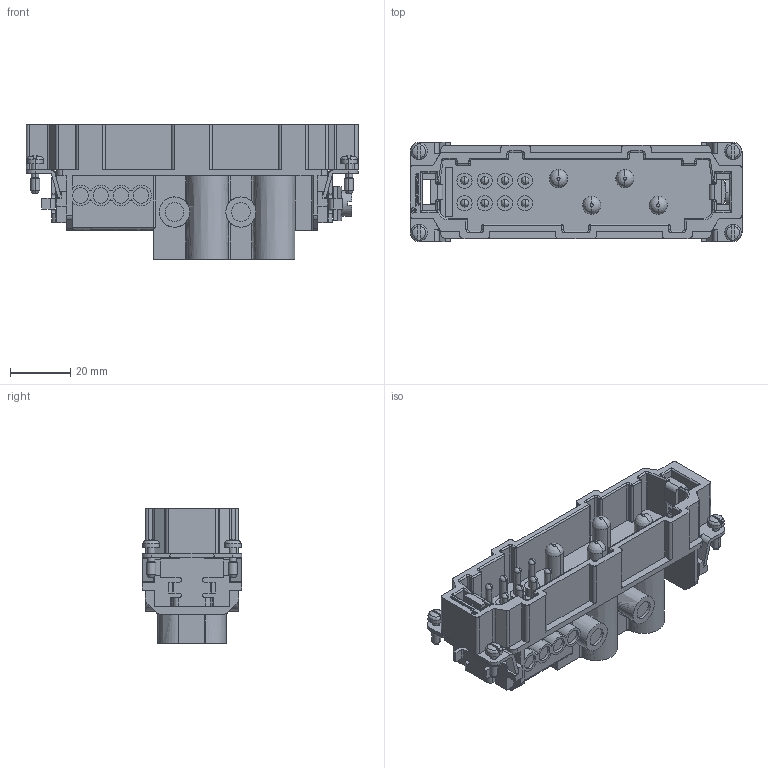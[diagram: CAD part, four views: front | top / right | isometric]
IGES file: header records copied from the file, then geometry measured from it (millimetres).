
Start section:  PTC IGES file: c-1103148-1-d-3d.igs
Global section: file name: c-1103148-1-d-3d.igs; native system: Pro/ENGINEER by Parametric Technology Corporation; preprocessor: 2010430; author: workeradm; organization: Unknown; units: millimetre
Bounding box: 110 x 33 x 44.7 mm (x, y, z)
Surface area: 31315.9 mm2 (no closed solid volume)
Topology: 0 solids, 0 shells, 1254 faces, 6782 edges, 6766 vertices
Faces by surface type: bspline 600, revolution 462, extrusion 192
